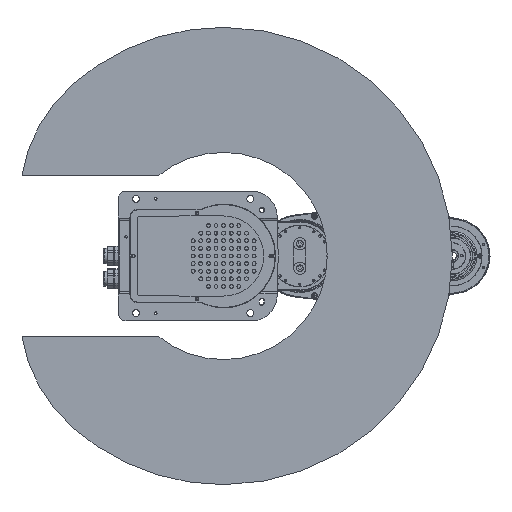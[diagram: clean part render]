
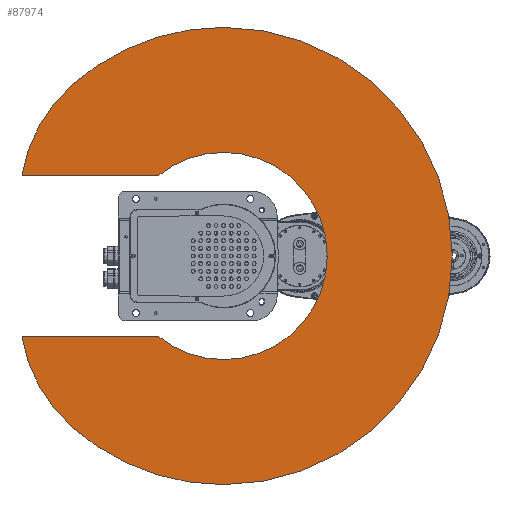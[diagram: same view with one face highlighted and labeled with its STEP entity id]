
A CAD part, front view. The second image highlights one B-rep face of the part: STEP entity #87974.
In plain terms, the highlighted planar face has unit normal (0, -1, 0).
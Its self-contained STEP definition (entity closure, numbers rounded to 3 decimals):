
#2547 = CIRCLE ( 'NONE', #111661, 300. ) ;
#6131 = CARTESIAN_POINT ( 'NONE',  ( 66.913, 0., -74.314 ) ) ;
#6934 = AXIS2_PLACEMENT_3D ( 'NONE', #9091, #110957, #118164 ) ;
#7523 = EDGE_CURVE ( 'NONE', #24603, #61919, #60912, .T. ) ;
#9091 = CARTESIAN_POINT ( 'NONE',  ( 66.913, 0., -74.314 ) ) ;
#9722 = ORIENTED_EDGE ( 'NONE', *, *, #88238, .F. ) ;
#9984 = CARTESIAN_POINT ( 'NONE',  ( 0., 0., 0. ) ) ;
#10858 = DIRECTION ( 'NONE',  ( 0., 0., 1. ) ) ;
#14985 = EDGE_CURVE ( 'NONE', #61919, #24268, #103217, .T. ) ;
#15189 = CARTESIAN_POINT ( 'NONE',  ( 0., 0., -135.9 ) ) ;
#15334 = DIRECTION ( 'NONE',  ( 0., 0., 1. ) ) ;
#16816 = ORIENTED_EDGE ( 'NONE', *, *, #115774, .F. ) ;
#18284 = AXIS2_PLACEMENT_3D ( 'NONE', #9984, #46550, #107737 ) ;
#24268 = VERTEX_POINT ( 'NONE', #103354 ) ;
#24603 = VERTEX_POINT ( 'NONE', #111014 ) ;
#25881 = CARTESIAN_POINT ( 'NONE',  ( 86.278, 0., -105. ) ) ;
#25980 = CARTESIAN_POINT ( 'NONE',  ( 86.278, 0., 105. ) ) ;
#26430 = ORIENTED_EDGE ( 'NONE', *, *, #98003, .F. ) ;
#26637 = ORIENTED_EDGE ( 'NONE', *, *, #7523, .F. ) ;
#27993 = CIRCLE ( 'NONE', #6934, 200. ) ;
#32409 = CARTESIAN_POINT ( 'NONE',  ( 0., 0., 0. ) ) ;
#33488 = VECTOR ( 'NONE', #61867, 1000. ) ;
#35082 = CARTESIAN_POINT ( 'NONE',  ( 0., 0., 0. ) ) ;
#36233 = AXIS2_PLACEMENT_3D ( 'NONE', #43205, #87568, #80334 ) ;
#40213 = CARTESIAN_POINT ( 'NONE',  ( 0., 0., -300. ) ) ;
#42849 = CARTESIAN_POINT ( 'NONE',  ( 264.545, 0., -105. ) ) ;
#43205 = CARTESIAN_POINT ( 'NONE',  ( 0., 0., 0. ) ) ;
#43440 = CARTESIAN_POINT ( 'NONE',  ( 86.278, 0., 105. ) ) ;
#44317 = CARTESIAN_POINT ( 'NONE',  ( 200.739, 0., -222.943 ) ) ;
#46550 = DIRECTION ( 'NONE',  ( 0., 1., 0. ) ) ;
#47715 = AXIS2_PLACEMENT_3D ( 'NONE', #35082, #117760, #15334 ) ;
#51097 = LINE ( 'NONE', #25881, #33488 ) ;
#51695 = FACE_OUTER_BOUND ( 'NONE', #103517, .T. ) ;
#55995 = ORIENTED_EDGE ( 'NONE', *, *, #95381, .F. ) ;
#56162 = VERTEX_POINT ( 'NONE', #44317 ) ;
#59363 = DIRECTION ( 'NONE',  ( 0., 1., 0. ) ) ;
#60174 = ORIENTED_EDGE ( 'NONE', *, *, #14985, .F. ) ;
#60912 = CIRCLE ( 'NONE', #47715, 135.9 ) ;
#61365 = VERTEX_POINT ( 'NONE', #67131 ) ;
#61867 = DIRECTION ( 'NONE',  ( 1., 0., 0. ) ) ;
#61919 = VERTEX_POINT ( 'NONE', #15189 ) ;
#62252 = DIRECTION ( 'NONE',  ( 0., 1., 0. ) ) ;
#64847 = AXIS2_PLACEMENT_3D ( 'NONE', #6131, #79263, #115816 ) ;
#67034 = DIRECTION ( 'NONE',  ( 0., 0., 1. ) ) ;
#67131 = CARTESIAN_POINT ( 'NONE',  ( 200.739, 0., 222.943 ) ) ;
#69036 = CARTESIAN_POINT ( 'NONE',  ( 264.545, 0., 105. ) ) ;
#70096 = EDGE_CURVE ( 'NONE', #118109, #112004, #70959, .T. ) ;
#70420 = CIRCLE ( 'NONE', #118196, 300. ) ;
#70959 = LINE ( 'NONE', #25980, #75895 ) ;
#73805 = CARTESIAN_POINT ( 'NONE',  ( 0., 0., 0. ) ) ;
#73835 = CIRCLE ( 'NONE', #102494, 135.9 ) ;
#75895 = VECTOR ( 'NONE', #99059, 1000. ) ;
#76529 = AXIS2_PLACEMENT_3D ( 'NONE', #107787, #62252, #98760 ) ;
#77145 = ORIENTED_EDGE ( 'NONE', *, *, #96938, .F. ) ;
#79263 = DIRECTION ( 'NONE',  ( 0., 1., 0. ) ) ;
#79884 = ORIENTED_EDGE ( 'NONE', *, *, #84382, .F. ) ;
#80334 = DIRECTION ( 'NONE',  ( 0., 0., 1. ) ) ;
#80905 = VERTEX_POINT ( 'NONE', #40213 ) ;
#82001 = EDGE_CURVE ( 'NONE', #92075, #61365, #2547, .T. ) ;
#84382 = EDGE_CURVE ( 'NONE', #80905, #92075, #98606, .T. ) ;
#86119 = CIRCLE ( 'NONE', #76529, 200. ) ;
#87568 = DIRECTION ( 'NONE',  ( 0., -1., 0. ) ) ;
#87974 = ADVANCED_FACE ( 'NONE', ( #51695 ), #88262, .F. ) ;
#88238 = EDGE_CURVE ( 'NONE', #56162, #80905, #70420, .T. ) ;
#88262 = PLANE ( 'NONE',  #64847 ) ;
#92075 = VERTEX_POINT ( 'NONE', #104230 ) ;
#92949 = DIRECTION ( 'NONE',  ( 0., 1., 0. ) ) ;
#94147 = CARTESIAN_POINT ( 'NONE',  ( 0., 0., 0. ) ) ;
#94945 = VERTEX_POINT ( 'NONE', #42849 ) ;
#95381 = EDGE_CURVE ( 'NONE', #24268, #94945, #51097, .T. ) ;
#96938 = EDGE_CURVE ( 'NONE', #94945, #56162, #27993, .T. ) ;
#98003 = EDGE_CURVE ( 'NONE', #112004, #24603, #73835, .T. ) ;
#98606 = CIRCLE ( 'NONE', #18284, 300. ) ;
#98760 = DIRECTION ( 'NONE',  ( 0., 0., -1. ) ) ;
#99059 = DIRECTION ( 'NONE',  ( -1., 0., 0. ) ) ;
#102494 = AXIS2_PLACEMENT_3D ( 'NONE', #94147, #112764, #67034 ) ;
#103217 = CIRCLE ( 'NONE', #36233, 135.9 ) ;
#103354 = CARTESIAN_POINT ( 'NONE',  ( 86.278, 0., -105. ) ) ;
#103517 = EDGE_LOOP ( 'NONE', ( #77145, #55995, #60174, #26637, #26430, #108253, #16816, #116500, #79884, #9722 ) ) ;
#104230 = CARTESIAN_POINT ( 'NONE',  ( 0., 0., 300. ) ) ;
#106099 = DIRECTION ( 'NONE',  ( 0., 0., 1. ) ) ;
#107737 = DIRECTION ( 'NONE',  ( 0., 0., 1. ) ) ;
#107787 = CARTESIAN_POINT ( 'NONE',  ( 66.913, 0., 74.314 ) ) ;
#108253 = ORIENTED_EDGE ( 'NONE', *, *, #70096, .F. ) ;
#110957 = DIRECTION ( 'NONE',  ( 0., 1., 0. ) ) ;
#111014 = CARTESIAN_POINT ( 'NONE',  ( 0., 0., 135.9 ) ) ;
#111661 = AXIS2_PLACEMENT_3D ( 'NONE', #32409, #59363, #106099 ) ;
#112004 = VERTEX_POINT ( 'NONE', #43440 ) ;
#112764 = DIRECTION ( 'NONE',  ( 0., -1., 0. ) ) ;
#115774 = EDGE_CURVE ( 'NONE', #61365, #118109, #86119, .T. ) ;
#115816 = DIRECTION ( 'NONE',  ( 0., 0., 1. ) ) ;
#116500 = ORIENTED_EDGE ( 'NONE', *, *, #82001, .F. ) ;
#117760 = DIRECTION ( 'NONE',  ( 0., -1., 0. ) ) ;
#118109 = VERTEX_POINT ( 'NONE', #69036 ) ;
#118164 = DIRECTION ( 'NONE',  ( 0., 0., 1. ) ) ;
#118196 = AXIS2_PLACEMENT_3D ( 'NONE', #73805, #92949, #10858 ) ;
